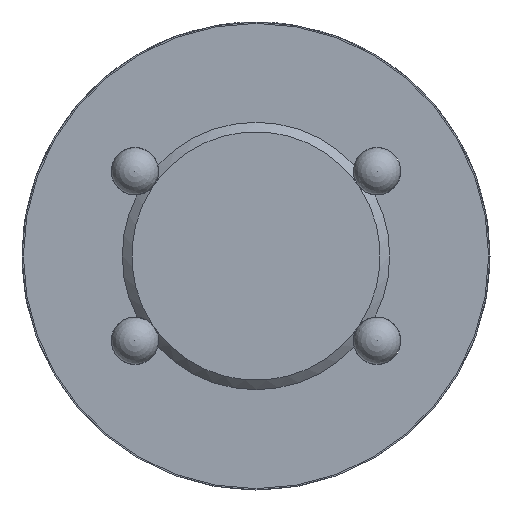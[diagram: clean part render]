
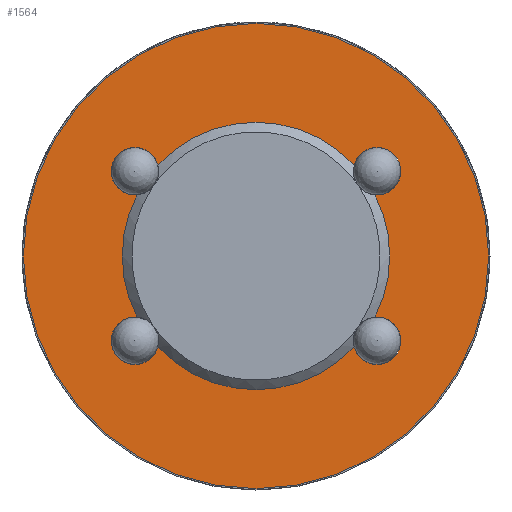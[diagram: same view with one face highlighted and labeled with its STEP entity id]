
A CAD part, left-side view. The second image highlights one B-rep face of the part: STEP entity #1564.
In plain terms, the highlighted planar face has unit normal (-1, 0, 0).
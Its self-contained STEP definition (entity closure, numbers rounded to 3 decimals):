
#54=PLANE('',#1699);
#600=ORIENTED_EDGE('',*,*,#969,.F.);
#601=ORIENTED_EDGE('',*,*,#970,.T.);
#602=ORIENTED_EDGE('',*,*,#884,.F.);
#603=ORIENTED_EDGE('',*,*,#949,.T.);
#604=ORIENTED_EDGE('',*,*,#966,.F.);
#605=ORIENTED_EDGE('',*,*,#971,.T.);
#606=ORIENTED_EDGE('',*,*,#860,.F.);
#607=ORIENTED_EDGE('',*,*,#921,.T.);
#608=ORIENTED_EDGE('',*,*,#967,.T.);
#860=EDGE_CURVE('',#1083,#1084,#1230,.T.);
#884=EDGE_CURVE('',#1107,#1108,#1232,.T.);
#921=EDGE_CURVE('',#1083,#1134,#1237,.T.);
#949=EDGE_CURVE('',#1107,#1150,#1244,.T.);
#966=EDGE_CURVE('',#1166,#1150,#1248,.T.);
#967=EDGE_CURVE('',#1167,#1167,#1249,.T.);
#969=EDGE_CURVE('',#1169,#1134,#1251,.T.);
#970=EDGE_CURVE('',#1169,#1108,#1252,.T.);
#971=EDGE_CURVE('',#1166,#1084,#1253,.T.);
#1083=VERTEX_POINT('',#2281);
#1084=VERTEX_POINT('',#2283);
#1107=VERTEX_POINT('',#2360);
#1108=VERTEX_POINT('',#2362);
#1134=VERTEX_POINT('',#2640);
#1150=VERTEX_POINT('',#2885);
#1166=VERTEX_POINT('',#2945);
#1167=VERTEX_POINT('',#2949);
#1169=VERTEX_POINT('',#2954);
#1230=CIRCLE('',#1662,10.);
#1232=CIRCLE('',#1665,10.);
#1237=CIRCLE('',#1676,1.778);
#1244=CIRCLE('',#1689,1.778);
#1248=CIRCLE('',#1695,10.);
#1249=CIRCLE('',#1697,17.4);
#1251=CIRCLE('',#1700,10.);
#1252=CIRCLE('',#1701,1.778);
#1253=CIRCLE('',#1702,1.778);
#1336=EDGE_LOOP('',(#600,#601,#602,#603,#604,#605,#606,#607));
#1337=EDGE_LOOP('',(#608));
#1460=FACE_BOUND('',#1336,.T.);
#1461=FACE_BOUND('',#1337,.T.);
#1564=ADVANCED_FACE('',(#1460,#1461),#54,.F.);
#1662=AXIS2_PLACEMENT_3D('',#2282,#1855,#1856);
#1665=AXIS2_PLACEMENT_3D('',#2361,#1873,#1874);
#1676=AXIS2_PLACEMENT_3D('',#2641,#1907,#1908);
#1689=AXIS2_PLACEMENT_3D('',#2886,#1939,#1940);
#1695=AXIS2_PLACEMENT_3D('',#2946,#1957,#1958);
#1697=AXIS2_PLACEMENT_3D('',#2948,#1961,#1962);
#1699=AXIS2_PLACEMENT_3D('',#2952,#1965,#1966);
#1700=AXIS2_PLACEMENT_3D('',#2953,#1967,#1968);
#1701=AXIS2_PLACEMENT_3D('',#2955,#1969,#1970);
#1702=AXIS2_PLACEMENT_3D('',#2956,#1971,#1972);
#1855=DIRECTION('',(-1.,0.,0.));
#1856=DIRECTION('',(0.,0.,1.));
#1873=DIRECTION('',(-1.,0.,0.));
#1874=DIRECTION('',(0.,0.,1.));
#1907=DIRECTION('',(1.,0.,0.));
#1908=DIRECTION('',(0.,-0.819,0.574));
#1939=DIRECTION('',(1.,0.,0.));
#1940=DIRECTION('',(0.,0.819,-0.574));
#1957=DIRECTION('',(-1.,0.,0.));
#1958=DIRECTION('',(0.,0.,1.));
#1961=DIRECTION('',(-1.,0.,0.));
#1962=DIRECTION('',(0.,0.,1.));
#1965=DIRECTION('',(1.,0.,0.));
#1966=DIRECTION('',(0.,0.,-1.));
#1967=DIRECTION('',(-1.,0.,0.));
#1968=DIRECTION('',(0.,0.,1.));
#1969=DIRECTION('',(1.,0.,0.));
#1970=DIRECTION('',(0.,-0.819,-0.574));
#1971=DIRECTION('',(1.,0.,0.));
#1972=DIRECTION('',(0.,0.819,0.574));
#2281=CARTESIAN_POINT('',(-28.,7.334,-6.798));
#2282=CARTESIAN_POINT('',(-28.,0.,0.));
#2283=CARTESIAN_POINT('',(-28.,-7.334,-6.798));
#2360=CARTESIAN_POINT('',(-28.,-7.334,6.798));
#2361=CARTESIAN_POINT('',(-28.,0.,0.));
#2362=CARTESIAN_POINT('',(-28.,7.334,6.798));
#2640=CARTESIAN_POINT('',(-28.,8.896,-4.567));
#2641=CARTESIAN_POINT('',(-28.,9.052,-6.338));
#2885=CARTESIAN_POINT('',(-28.,-8.896,4.567));
#2886=CARTESIAN_POINT('',(-28.,-9.052,6.338));
#2945=CARTESIAN_POINT('',(-28.,-8.896,-4.567));
#2946=CARTESIAN_POINT('',(-28.,0.,0.));
#2948=CARTESIAN_POINT('',(-28.,0.,0.));
#2949=CARTESIAN_POINT('',(-28.,0.,17.4));
#2952=CARTESIAN_POINT('',(-28.,17.4,0.));
#2953=CARTESIAN_POINT('',(-28.,0.,0.));
#2954=CARTESIAN_POINT('',(-28.,8.896,4.567));
#2955=CARTESIAN_POINT('',(-28.,9.052,6.338));
#2956=CARTESIAN_POINT('',(-28.,-9.052,-6.338));
